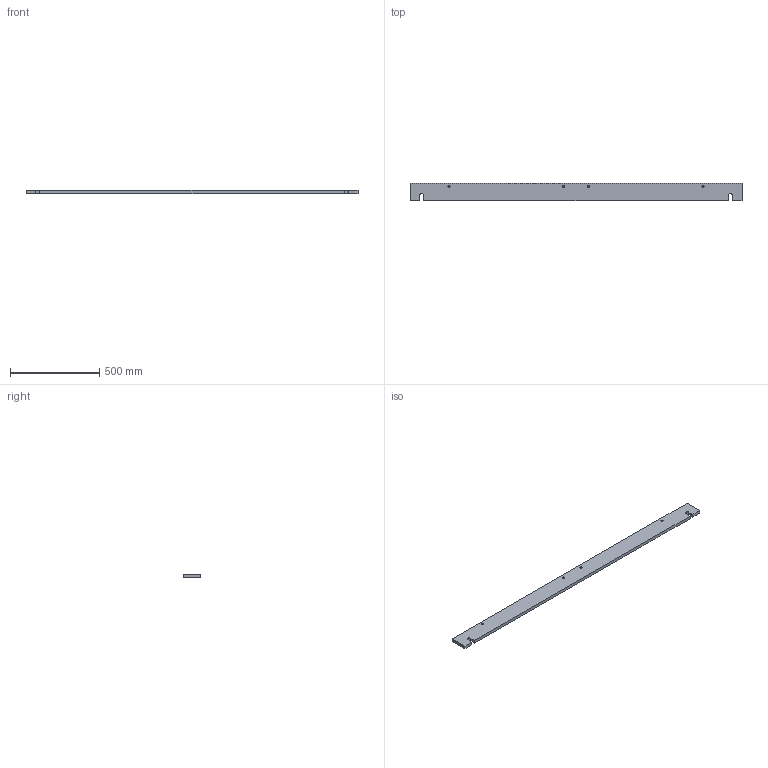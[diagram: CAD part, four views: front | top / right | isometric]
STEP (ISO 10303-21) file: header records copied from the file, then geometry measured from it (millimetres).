
FILE_DESCRIPTION (( 'STEP AP214' ), '1' );
FILE_NAME ('PANAC0042.STEP', '2025-01-27T12:19:55', ( '' ), ( '' ), 'SwSTEP 2.0', 'SolidWorks 2022', '' );
FILE_SCHEMA (( 'AUTOMOTIVE_DESIGN' ));
Length unit declared in the file: millimetre
Products named in the file (1): PANAC0042
Bounding box: 1856 x 100 x 18 mm (x, y, z)
Volume: 3305994 mm3; surface area: 442256.3 mm2
Topology: 1 solids, 1 shells, 38 faces, 92 edges, 52 vertices
Faces by surface type: cone 16, plane 12, cylinder 10
Entity records: 1074 total; most frequent: DIRECTION 190, CARTESIAN_POINT 175, ORIENTED_EDGE 168, EDGE_CURVE 84, AXIS2_PLACEMENT_3D 67, LINE 56, VECTOR 56, VERTEX_POINT 52
